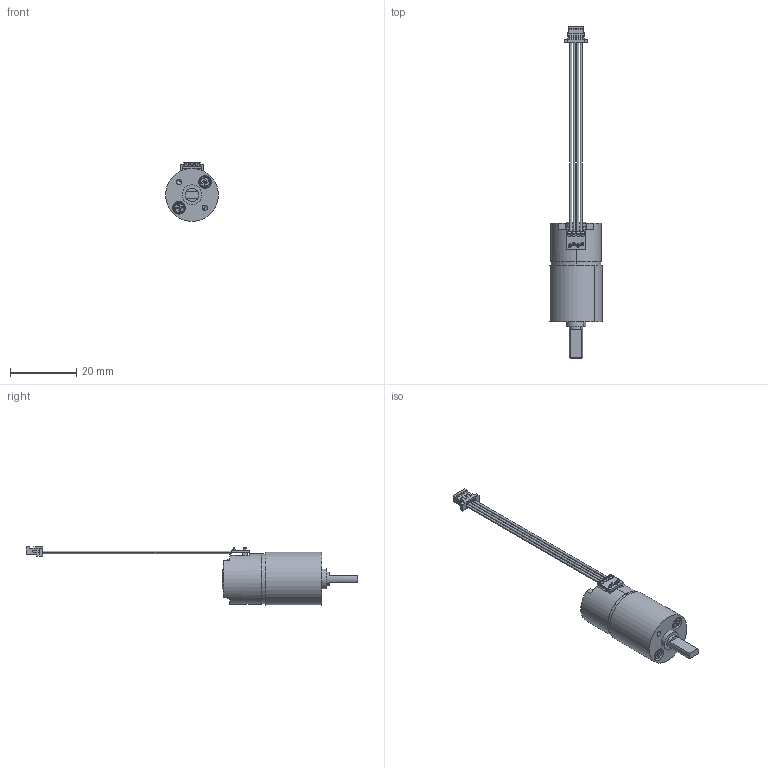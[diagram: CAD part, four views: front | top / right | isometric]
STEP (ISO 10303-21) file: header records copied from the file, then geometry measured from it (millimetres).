
FILE_DESCRIPTION (( 'STEP AP214' ), '1' );
FILE_NAME ('15SGxxR97_150.STEP', '2016-05-17T15:33:58', ( '' ), ( '' ), 'SwSTEP 2.0', 'SolidWorks 2015', '' );
FILE_SCHEMA (( 'AUTOMOTIVE_DESIGN' ));
Length unit declared in the file: millimetre
Products named in the file (4): PM 15SG_Med fl„ns; 15SGxxR97_150; Gearbox 97.1; skruv m1.7
Assembly tree (4 placements, depth 2):
  15SGxxR97_150
    PM 15SG_Med fl„ns
    Gearbox 97.1
    skruv m1.7  x2
Bounding box: 15.94 x 100.3 x 17.67 mm (x, y, z)
Volume: 5661.5 mm3; surface area: 4085.2 mm2
Topology: 6 solids, 6 shells, 906 faces, 2411 edges, 1577 vertices
Faces by surface type: plane 572, cylinder 176, bspline 130, torus 20, cone 8
Entity records: 35476 total; most frequent: CARTESIAN_POINT 7925, ORIENTED_EDGE 4654, DIRECTION 3991, EDGE_CURVE 2327, VECTOR 1661, LINE 1661, VERTEX_POINT 1531, AXIS2_PLACEMENT_3D 1165
